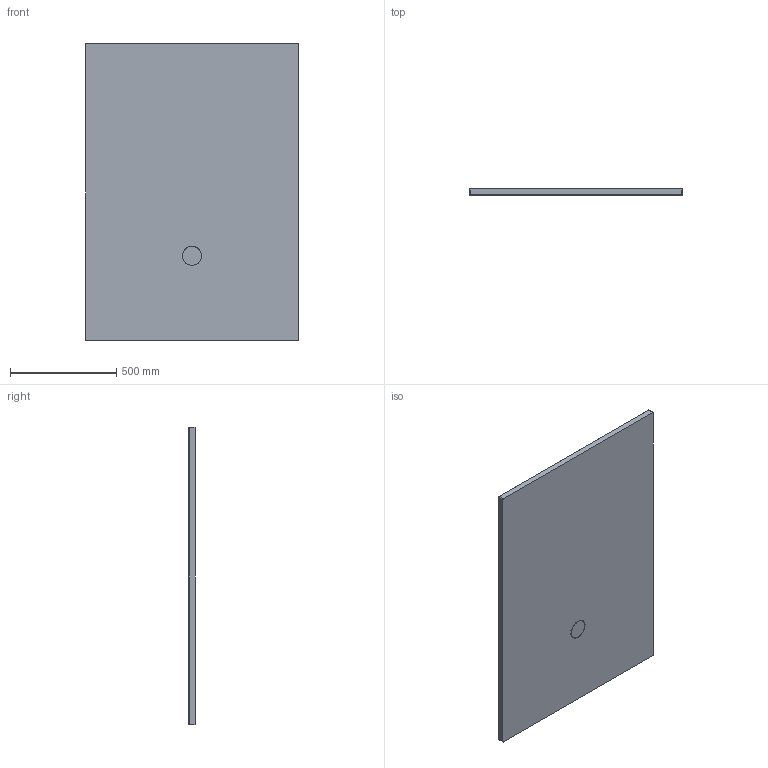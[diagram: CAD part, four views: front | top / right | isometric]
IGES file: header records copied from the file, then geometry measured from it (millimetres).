
Start section: SolidWorks IGES file using analytic representation for surfaces
Global section: file name: D:\Users\M.Szymanski\Desktop\Brodziki\Nias\B_M_NIAS_140x100x1,5.IGS; native system: SolidWorks 2011; preprocessor: SolidWorks 2011; author: M.Szymanski; date: 180222.142313; units: millimetre
Bounding box: 1000 x 30 x 1400 mm (x, y, z)
Surface area: 2961885.9 mm2 (no closed solid volume)
Topology: 0 solids, 0 shells, 45 faces, 680 edges, 679 vertices
Faces by surface type: bspline 25, revolution 20
